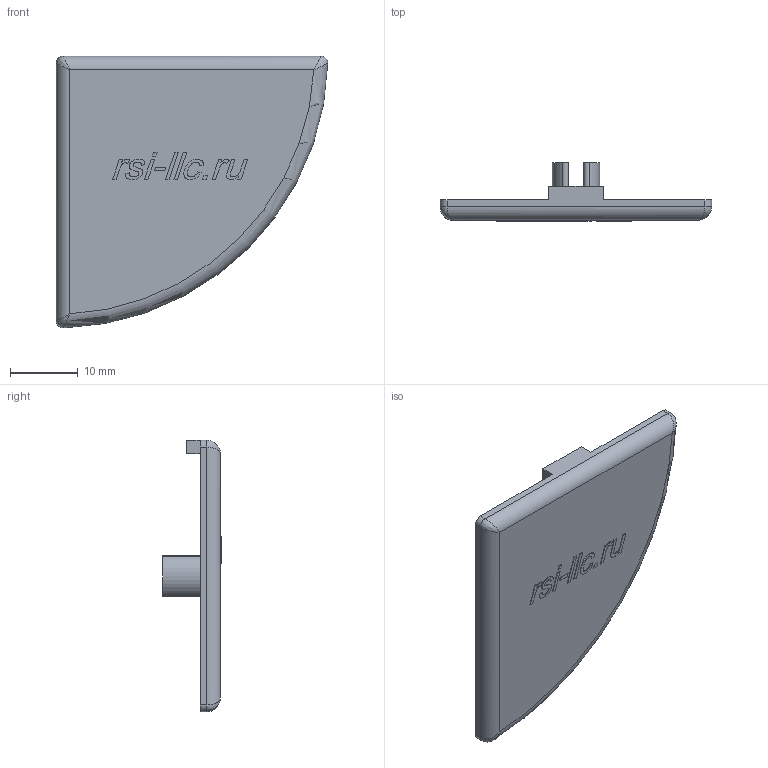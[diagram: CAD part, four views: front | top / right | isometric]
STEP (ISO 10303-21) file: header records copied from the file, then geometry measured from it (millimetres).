
FILE_DESCRIPTION (( 'STEP AP214' ), '1' );
FILE_NAME ('4013.STEP', '2020-10-20T12:55:40', ( '' ), ( '' ), 'SwSTEP 2.0', 'SolidWorks 2018', '' );
FILE_SCHEMA (( 'AUTOMOTIVE_DESIGN' ));
Length unit declared in the file: millimetre
Products named in the file (1): 4013
Bounding box: 40 x 8.6 x 40 mm (x, y, z)
Volume: 2329.9 mm3; surface area: 3227.7 mm2
Topology: 1 solids, 1 shells, 148 faces, 379 edges, 243 vertices
Faces by surface type: plane 74, bspline 35, cylinder 23, torus 16
Entity records: 7409 total; most frequent: CARTESIAN_POINT 2949, ORIENTED_EDGE 752, DIRECTION 608, EDGE_CURVE 376, VERTEX_POINT 243, LINE 232, VECTOR 232, AXIS2_PLACEMENT_3D 188
